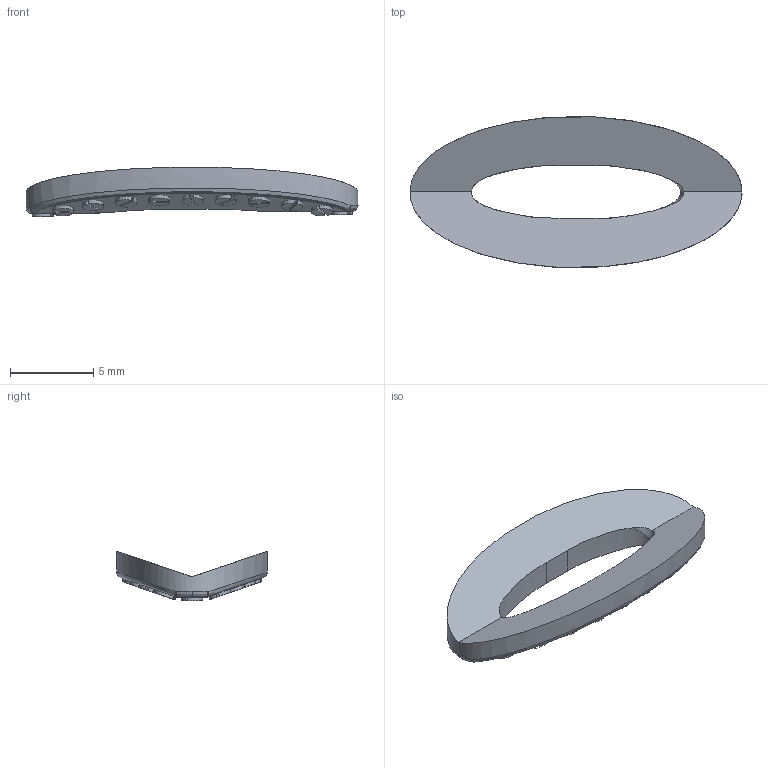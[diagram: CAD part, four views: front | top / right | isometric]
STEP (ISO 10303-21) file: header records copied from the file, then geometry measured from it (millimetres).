
FILE_DESCRIPTION(/* description */ ('','CAx-IF Rec.Pracs.---Representation and Presentation of Product Manufacturing Information (PMI)---4.0---2014-10-13'),/* implementation_level */ '2;1');
FILE_NAME(/* name */ 'Higgins 20th Strut Base center v1.step',/* time_stamp */ '2025-02-16T13:52:03+11:00',/* author */ (''),/* organization */ (''),/* preprocessor_version */ 'ST-DEVELOPER v20',/* originating_system */ 'Autodesk Translation Framework v13.20.0.188',/* authorisation */ '');
FILE_SCHEMA (('AP242_MANAGED_MODEL_BASED_3D_ENGINEERING_MIM_LF { 1 0 10303 442 1 1 4 }'));
Length unit declared in the file: millimetre
Products named in the file (2): Higgins 20th Strut Base center; Component1
Assembly tree (1 placements, depth 2):
  Higgins 20th Strut Base center
    Component1
Bounding box: 20 x 9.09 x 2.99 mm (x, y, z)
Volume: 169.4 mm3; surface area: 365.7 mm2
Topology: 1 solids, 1 shells, 175 faces, 397 edges, 257 vertices
Faces by surface type: plane 102, cylinder 59, bspline 10, sphere 4
Entity records: 5590 total; most frequent: CARTESIAN_POINT 1580, DIRECTION 821, ORIENTED_EDGE 794, EDGE_CURVE 397, AXIS2_PLACEMENT_3D 295, VERTEX_POINT 257, LINE 231, VECTOR 231
